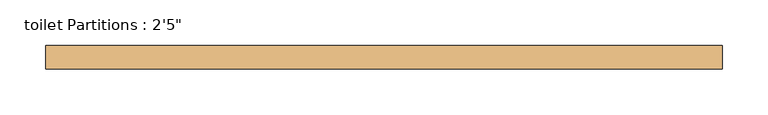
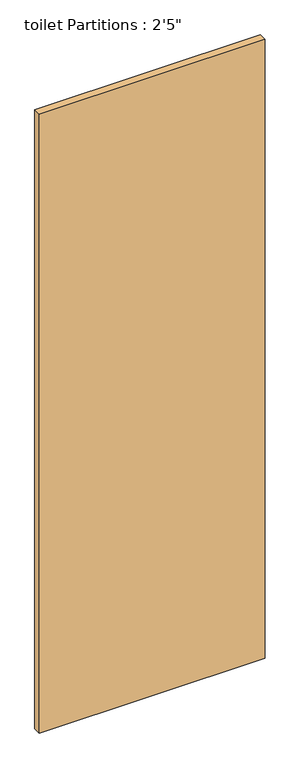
"""IFC4 building model written with IfcOpenShell, lengths in millimetres: door geometry."""

import ifcopenshell
import ifcopenshell.guid

model = None  # the IFC model being written
_history = None  # IfcOwnerHistory: only IFC2X3 demands one
_inside = {}  # id of a spatial element -> (the spatial element, [elements in it])
_under = {}  # id of a project, library or spatial element -> (it, [spatial elements below it])
_declared = {}  # id of a project -> (the project, [libraries it declares])
_typed = {}  # id of a type object -> (the type object, [elements of that type])
_made_of = {}  # id of a material, layer set ... -> (it, [elements and type objects made of it])


def new_model(schema):
    """Start an empty IFC model of exactly this schema.

    Asked for "IFC4X3", IfcOpenShell would pick the latest addendum, in which some entities
    have other attributes; the version numbers below select the first issue.
    IFC2X3 requires an IfcOwnerHistory on every rooted entity: one is made here for all.
    """
    global model, _history
    if schema == "IFC4X3":
        model = ifcopenshell.file(schema_version=(4, 3, 0, 0))
    else:
        model = ifcopenshell.file(schema=schema)
    _inside.clear()
    _under.clear()
    _declared.clear()
    _typed.clear()
    _made_of.clear()
    _history = None
    if model.schema == "IFC2X3":
        org = make("IfcOrganization", Name="unknown")
        user = make(
            "IfcPersonAndOrganization",
            ThePerson=make("IfcPerson", FamilyName="unknown"),
            TheOrganization=org,
        )
        app = make(
            "IfcApplication",
            ApplicationDeveloper=org,
            Version="unknown",
            ApplicationFullName="unknown",
            ApplicationIdentifier="unknown",
        )
        _history = make(
            "IfcOwnerHistory",
            OwningUser=user,
            OwningApplication=app,
            ChangeAction="ADDED",
            CreationDate=0,
        )
    return model


def make(cls, **values):
    """One entity of the class cls with the attributes given. An attribute that is None is left unset."""
    return model.create_entity(
        cls, **{name: value for name, value in values.items() if value is not None}
    )


def rooted(cls, **values):
    """An entity with a GlobalId (a new one), such as an element, a storey or a relation."""
    return make(cls, GlobalId=ifcopenshell.guid.new(), OwnerHistory=_history, **values)


def si_unit(unit_type, name, prefix=None):
    """IfcSIUnit, for example si_unit("LENGTHUNIT", "METRE", prefix="MILLI")."""
    return make("IfcSIUnit", UnitType=unit_type, Prefix=prefix, Name=name)


def assignment(units):
    """IfcUnitAssignment: the units of a project."""
    return None if units is None else make("IfcUnitAssignment", Units=units)


def point(xyz):
    """IfcCartesianPoint."""
    return None if xyz is None else make("IfcCartesianPoint", Coordinates=xyz)


def direction(xyz):
    """IfcDirection."""
    return None if xyz is None else make("IfcDirection", DirectionRatios=xyz)


def frame(location, z_axis=None, x_axis=None):
    """IfcAxis2Placement3D, a coordinate frame: its origin and axes. An axis left out is left unset."""
    return make(
        "IfcAxis2Placement3D",
        Location=point(location),
        Axis=direction(z_axis),
        RefDirection=direction(x_axis),
    )


def origin():
    """The frame at (0, 0, 0) with its axes left unset."""
    return frame((0.0, 0.0, 0.0))


def origin_with_axes():
    """The frame at (0, 0, 0) with the z axis (0, 0, 1) and the x axis (1, 0, 0) written out."""
    return frame((0.0, 0.0, 0.0), z_axis=(0.0, 0.0, 1.0), x_axis=(1.0, 0.0, 0.0))


def place(relative_to, where):
    """IfcLocalPlacement: puts the frame where relative to a parent placement (None: the world)."""
    return make(
        "IfcLocalPlacement", PlacementRelTo=relative_to, RelativePlacement=where
    )


def context(
    kind, dimensions, precision=None, world=None, true_north=None, identifier=None
):
    """IfcGeometricRepresentationContext, for example the 3D "Model" context."""
    return make(
        "IfcGeometricRepresentationContext",
        ContextIdentifier=identifier,
        ContextType=kind,
        CoordinateSpaceDimension=dimensions,
        Precision=precision,
        WorldCoordinateSystem=world,
        TrueNorth=true_north,
    )


def project(units=None, contexts=None):
    """IfcProject with its units and contexts."""
    return rooted(
        "IfcProject",
        Name="project",
        RepresentationContexts=contexts,
        UnitsInContext=assignment(units),
    )


def spatial(cls, under=None, at=None, **own):
    """A site, building, storey or space (cls), placed at a placement, below another one or the project."""
    s = rooted(cls, ObjectPlacement=at, **own)
    if under is not None:
        _under.setdefault(under.id(), (under, []))[1].append(s)
    return s


def polyline(points):
    """IfcPolyline through the points."""
    return make("IfcPolyline", Points=[point(p) for p in points])


def outline(outer, holes=None, kind="AREA"):
    """IfcArbitraryClosedProfileDef: a profile drawn as a closed curve; with holes, ...WithVoids."""
    if holes is None:
        return make("IfcArbitraryClosedProfileDef", ProfileType=kind, OuterCurve=outer)
    return make(
        "IfcArbitraryProfileDefWithVoids",
        ProfileType=kind,
        OuterCurve=outer,
        InnerCurves=holes,
    )


def extrude(swept, where, along, depth):
    """IfcExtrudedAreaSolid: the profile swept, set in the frame where, extruded along a direction by depth."""
    return make(
        "IfcExtrudedAreaSolid",
        SweptArea=swept,
        Position=where,
        ExtrudedDirection=direction(along),
        Depth=depth,
    )


def shape(context_of_items, identifier, shape_type, items):
    """IfcShapeRepresentation: the items that make up one representation, for example the "Body"."""
    return make(
        "IfcShapeRepresentation",
        ContextOfItems=context_of_items,
        RepresentationIdentifier=identifier,
        RepresentationType=shape_type,
        Items=items,
    )


def source(mapping_origin, context_of_items, identifier, shape_type, items):
    """IfcRepresentationMap: a shape defined once, which mapped items show again and again."""
    return make(
        "IfcRepresentationMap",
        MappingOrigin=mapping_origin,
        MappedRepresentation=shape(context_of_items, identifier, shape_type, items),
    )


def transform(
    local_origin,
    x_axis=None,
    y_axis=None,
    z_axis=None,
    scale=None,
    scale2=None,
    scale3=None,
    uniform=True,
):
    """IfcCartesianTransformationOperator3D, or its non-uniform kind. x_axis, y_axis, z_axis: its Axis1, 2, 3."""
    if uniform:
        return make(
            "IfcCartesianTransformationOperator3D",
            Axis1=direction(x_axis),
            Axis2=direction(y_axis),
            LocalOrigin=point(local_origin),
            Scale=scale,
            Axis3=direction(z_axis),
        )
    return make(
        "IfcCartesianTransformationOperator3DnonUniform",
        Axis1=direction(x_axis),
        Axis2=direction(y_axis),
        LocalOrigin=point(local_origin),
        Scale=scale,
        Axis3=direction(z_axis),
        Scale2=scale2,
        Scale3=scale3,
    )


def mapped(mapping_source, mapping_target):
    """IfcMappedItem: shows the shape of a source again, moved by a transform."""
    return make(
        "IfcMappedItem", MappingSource=mapping_source, MappingTarget=mapping_target
    )


def made_of(thing, what):
    """Note that an element or type object is made of a material, layer set ...; save() writes the relation."""
    if what is not None:
        _made_of.setdefault(what.id(), (what, []))[1].append(thing)
    return thing


def element(
    cls,
    number,
    at=None,
    inside=None,
    cuts=None,
    type_object=None,
    material=None,
    context=None,
    identifier="Body",
    shape_type=None,
    held_by="IfcProductDefinitionShape",
    body=None,
    shapes=None,
    **own,
):
    """One element of the class cls, such as IfcWall. Its Tag is "e" and its number.

    at: its placement. inside: the storey or other place that contains it. cuts: it is an
    opening in that element (IfcRelVoidsElement). A single representation is given by context,
    identifier, shape_type and body (its items); several are given by shapes. held_by: the class
    of the entity that holds the representations. save() writes the other relations.
    """
    e = rooted(cls, Tag="e%d" % number, ObjectPlacement=at, **own)
    if body is not None:
        shapes = [shape(context, identifier, shape_type, body)]
    if shapes is not None:
        e.Representation = make(held_by, Representations=shapes)
    if inside is not None:
        _inside.setdefault(inside.id(), (inside, []))[1].append(e)
    if cuts is not None:
        rooted(
            "IfcRelVoidsElement", RelatingBuildingElement=cuts, RelatedOpeningElement=e
        )
    if type_object is not None:
        _typed.setdefault(type_object.id(), (type_object, []))[1].append(e)
    return made_of(e, material)


def aggregate(whole, parts):
    """IfcRelAggregates: a whole, such as a stair, and the parts it consists of."""
    return rooted("IfcRelAggregates", RelatingObject=whole, RelatedObjects=parts)


def save(model, path):
    """Write the relations noted so far, then the file.

    IfcRelAggregates (storeys below a building ...), IfcRelContainedInSpatialStructure (elements
    in a storey), IfcRelDefinesByType, IfcRelAssociatesMaterial and IfcRelDeclares: one each for
    every whole, place, type object, material and project.
    """
    for whole, parts in _under.values():
        aggregate(whole, parts)
    for where, things in _inside.values():
        rooted(
            "IfcRelContainedInSpatialStructure",
            RelatedElements=things,
            RelatingStructure=where,
        )
    for kind, things in _typed.values():
        rooted("IfcRelDefinesByType", RelatedObjects=things, RelatingType=kind)
    for what, things in _made_of.values():
        rooted("IfcRelAssociatesMaterial", RelatedObjects=things, RelatingMaterial=what)
    for by, libraries in _declared.values():
        rooted("IfcRelDeclares", RelatingContext=by, RelatedDefinitions=libraries)
    model.write(path)


def door_871a7840(model_context):
    return source(origin(), model_context, "Body", "SweptSolid", [
        extrude(outline(polyline([(368.3, 0.0), (-368.3, 0.0), (-368.3, 25.4), (368.3, 25.4), (368.3, 0.0)])), origin_with_axes(), (0.0, 0.0, 1.0), 2133.6),
    ])


if __name__ == "__main__":
    model = new_model("IFC4")
    model_context = context("Model", 3, world=origin())
    ifc_project = project(units=[si_unit("LENGTHUNIT", "METRE", prefix="MILLI")], contexts=[model_context])
    site = spatial("IfcSite", under=ifc_project)
    building = spatial("IfcBuilding", under=site)
    placement = place(None, origin())
    door_shape = door_871a7840(model_context)
    element("IfcDoor", 1, ObjectType="toilet Partitions : 2'5\"", at=placement, inside=building, context=model_context, shape_type="MappedRepresentation", body=[
        mapped(door_shape, transform((0.0, 0.0, 0.0), x_axis=(1.0, 0.0, 0.0), y_axis=(0.0, 1.0, 0.0), z_axis=(0.0, 0.0, 1.0))),
    ])
    save(model, "model.ifc")
